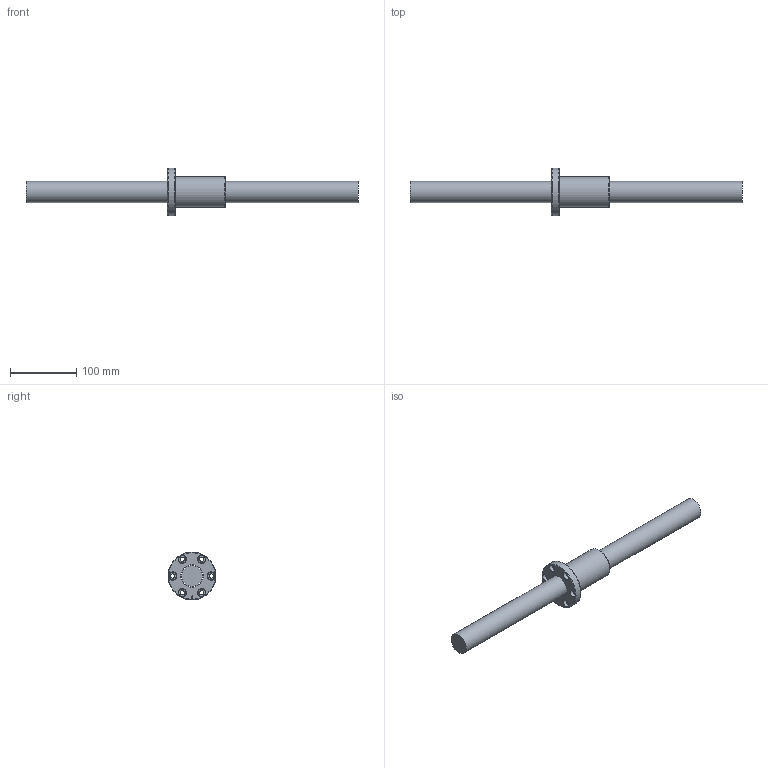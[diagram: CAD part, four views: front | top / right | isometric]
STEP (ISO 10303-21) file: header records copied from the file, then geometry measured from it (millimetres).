
FILE_DESCRIPTION (( 'STEP AP203' ), '1' );
FILE_NAME ('OFI03205N-4.step', '2024-05-17T03:23:26', ( '' ), ( '' ), 'SwSTEP 2.0', 'SolidWorks 2022', '' );
FILE_SCHEMA (( 'CONFIG_CONTROL_DESIGN' ));
Length unit declared in the file: millimetre
Products named in the file (1): OFI03205N-4
Bounding box: 500 x 72 x 72 mm (x, y, z)
Volume: 491107.4 mm3; surface area: 82692 mm2
Topology: 2 solids, 2 shells, 58 faces, 143 edges, 90 vertices
Faces by surface type: cylinder 24, cone 13, plane 12, bspline 6, torus 3
Full cylindrical faces by diameter (mm): 4 x1, 6.5 x6, 7 x5, 11 x6, 32 x1, 34.1 x1, 46 x1, 72 x1
Entity records: 3638 total; most frequent: CARTESIAN_POINT 2551, DIRECTION 208, ORIENTED_EDGE 158, EDGE_LOOP 106, AXIS2_PLACEMENT_3D 102, EDGE_CURVE 79, FACE_OUTER_BOUND 75, VERTEX_POINT 67
